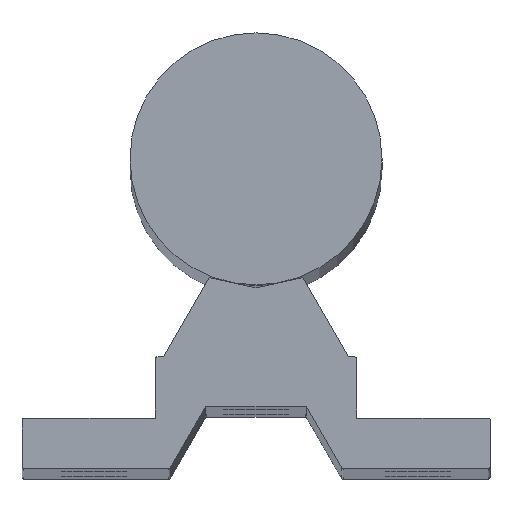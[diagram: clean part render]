
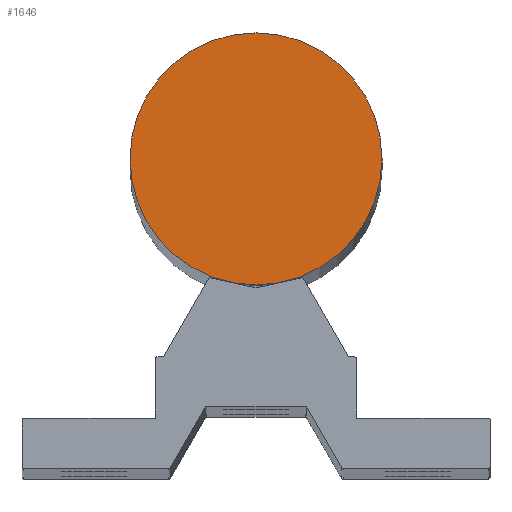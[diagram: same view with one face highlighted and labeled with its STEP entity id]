
A CAD part, top view. The second image highlights one B-rep face of the part: STEP entity #1646.
In plain terms, the highlighted planar face has unit normal (0, 0, 1).
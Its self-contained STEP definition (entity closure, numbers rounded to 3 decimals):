
#152 = DIRECTION ( 'NONE',  ( 1., 0., 0. ) ) ;
#164 = EDGE_LOOP ( 'NONE', ( #2319, #922 ) ) ;
#293 = DIRECTION ( 'NONE',  ( 1., 0., 0. ) ) ;
#364 = VERTEX_POINT ( 'NONE', #1411 ) ;
#523 = CARTESIAN_POINT ( 'NONE',  ( 0., 0., 425. ) ) ;
#603 = PLANE ( 'NONE',  #924 ) ;
#626 = DIRECTION ( 'NONE',  ( 1., 0., 0. ) ) ;
#716 = VERTEX_POINT ( 'NONE', #1871 ) ;
#922 = ORIENTED_EDGE ( 'NONE', *, *, #1640, .T. ) ;
#924 = AXIS2_PLACEMENT_3D ( 'NONE', #2895, #1526, #626 ) ;
#1058 = CARTESIAN_POINT ( 'NONE',  ( 0., 0., 425. ) ) ;
#1311 = AXIS2_PLACEMENT_3D ( 'NONE', #1058, #1976, #152 ) ;
#1411 = CARTESIAN_POINT ( 'NONE',  ( 17.5, 0., 425. ) ) ;
#1526 = DIRECTION ( 'NONE',  ( 0., 0., 1. ) ) ;
#1640 = EDGE_CURVE ( 'NONE', #364, #716, #2041, .T. ) ;
#1646 = ADVANCED_FACE ( 'NONE', ( #1988 ), #603, .T. ) ;
#1830 = EDGE_CURVE ( 'NONE', #716, #364, #2957, .T. ) ;
#1871 = CARTESIAN_POINT ( 'NONE',  ( -17.5, 0., 425. ) ) ;
#1976 = DIRECTION ( 'NONE',  ( 0., 0., 1. ) ) ;
#1988 = FACE_OUTER_BOUND ( 'NONE', #164, .T. ) ;
#2041 = CIRCLE ( 'NONE', #1311, 17.5 ) ;
#2319 = ORIENTED_EDGE ( 'NONE', *, *, #1830, .T. ) ;
#2397 = DIRECTION ( 'NONE',  ( 0., 0., 1. ) ) ;
#2568 = AXIS2_PLACEMENT_3D ( 'NONE', #523, #2397, #293 ) ;
#2895 = CARTESIAN_POINT ( 'NONE',  ( 0., 0., 425. ) ) ;
#2957 = CIRCLE ( 'NONE', #2568, 17.5 ) ;
